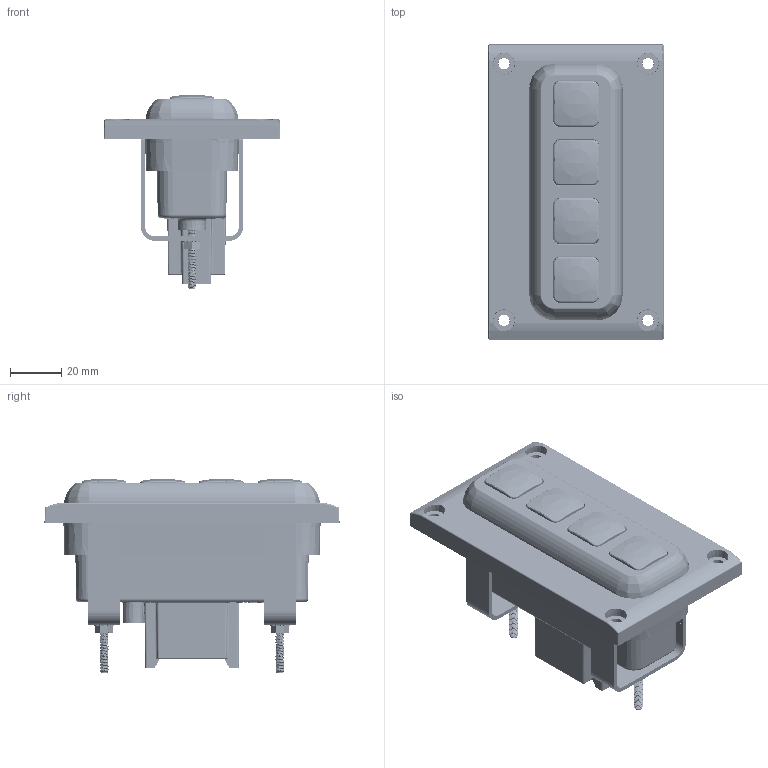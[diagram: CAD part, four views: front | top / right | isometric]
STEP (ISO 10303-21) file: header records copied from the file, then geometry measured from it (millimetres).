
FILE_DESCRIPTION((''),'2;1');
FILE_NAME('0_A15_PANEL_ASM','2018-12-21T',('ib46307'),(''),'PRO/ENGINEER BY PARAMETRIC TECHNOLOGY CORPORATION, 2015360','PRO/ENGINEER BY PARAMETRIC TECHNOLOGY CORPORATION, 2015360','');
FILE_SCHEMA(('CONFIG_CONTROL_DESIGN'));
Length unit declared in the file: inch
Products named in the file (44): 4554-11000-01_1; 4540-11059-01_1; 3544-10082-01_1; 4540-11059-01_ASM_1_ASM; 5509-12274-01_1; 5527-12214-01_1; SHORT-ROUND-PIN_1; LONG-ROUND-PIN_1; 5527-12214-01_ASM_1_ASM; TSM-105-01-X-DH_1; SM-XXX_-A10_1; TSM-105-01-X-DH_ASM_1_ASM; 5825-15719-01_1; 5509-12274-02_ASM_1_ASM; 5509-12272-01_1; MANIFOLD_SOLID_BREP_314856; MANIFOLD_SOLID_BREP_315142; MANIFOLD_SOLID_BREP_315428; MANIFOLD_SOLID_BREP_315714; MANIFOLD_SOLID_BREP_316000; 5826-15440-01_1_ASM; KINGBRIGHT_APTD3216SURC_1; NONE-473_1; C-95-X_-02_SMT_ANY_ASM_1_ASM; K-XXX-XXX_6_5MM__2559__ANY_ASM_; NONE-2171_1; SSM-50D_CUSTOMER_MODEL_ANY_ASM__ASM; SSM-105-X-DV-A-K_ANY_ASM_1_ASM; SSM-105-X-DV-A-K_ASM_1_ASM; 5509-12272-02_ASM_1_ASM; 4582-10659-01_1; 5526-12255-01_1; 6460-00005-01_1; 5526-12256-01_1; 3544-10210-01_1; 2525-10054-02_1; 8000-01359-01_1; 4531-10655-01_1; 1539-10792-01_ASM_1_ASM; 4522-11048-01_1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
Assembly tree (77 placements, depth 7):
  0_A15_PANEL_ASM
    4554-11000-01_1
    1539-10792-01_ASM_1_ASM
      4540-11059-01_ASM_1_ASM
        4540-11059-01_1
        3544-10082-01_1  x2
      5509-12274-02_ASM_1_ASM
        5509-12274-01_1
        5527-12214-01_ASM_1_ASM
          5527-12214-01_1
          SHORT-ROUND-PIN_1  x4
          LONG-ROUND-PIN_1  x4
        TSM-105-01-X-DH_ASM_1_ASM
          TSM-105-01-X-DH_1
          SM-XXX_-A10_1  x2
        5825-15719-01_1  x4
      5509-12272-02_ASM_1_ASM
        5509-12272-01_1
        5826-15440-01_1_ASM  x4
          MANIFOLD_SOLID_BREP_314856
          MANIFOLD_SOLID_BREP_315142
          MANIFOLD_SOLID_BREP_315428
          MANIFOLD_SOLID_BREP_315714
          MANIFOLD_SOLID_BREP_316000
        KINGBRIGHT_APTD3216SURC_1  x8
        SSM-105-X-DV-A-K_ASM_1_ASM
          SSM-105-X-DV-A-K_ANY_ASM_1_ASM
            C-95-X_-02_SMT_ANY_ASM_1_ASM  x10
              NONE-473_1
            K-XXX-XXX_6_5MM__2559__ANY_ASM_
            SSM-50D_CUSTOMER_MODEL_ANY_ASM__ASM
              NONE-2171_1
      4582-10659-01_1
      5526-12255-01_1
      6460-00005-01_1
      5526-12256-01_1
      3544-10210-01_1  x2
      2525-10054-02_1
      8000-01359-01_1
      4531-10655-01_1
    4522-11048-01_1  x2
    3560-10357-01_1  x2
    3531-10401-01_1  x2
    A15_FRAME
Bounding box: 68.58 x 115 x 75.81 mm (x, y, z)
Volume: 104817.3 mm3; surface area: 120579.7 mm2
Topology: 75 solids, 77 shells, 6184 faces, 16773 edges, 10875 vertices
Faces by surface type: plane 3634, cylinder 1472, cone 464, bspline 317, torus 209, sphere 80, revolution 8
Entity records: 166914 total; most frequent: CARTESIAN_POINT 53423, ORIENTED_EDGE 24304, DIRECTION 22196, EDGE_CURVE 12152, VECTOR 8216, LINE 8216, VERTEX_POINT 7854, AXIS2_PLACEMENT_3D 6989
